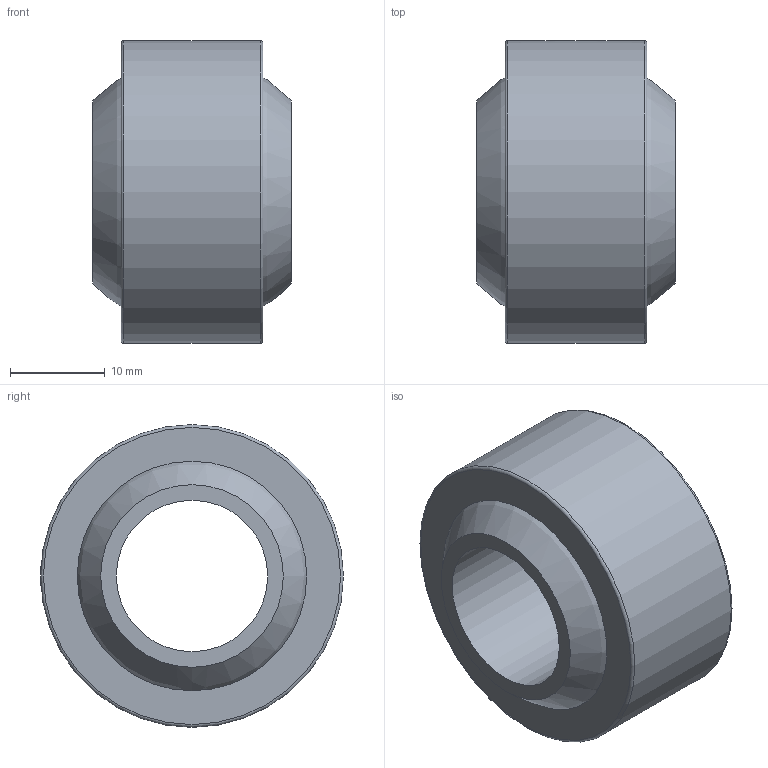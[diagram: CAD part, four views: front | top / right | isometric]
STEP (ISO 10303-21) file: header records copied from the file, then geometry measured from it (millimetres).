
FILE_DESCRIPTION( ( 'STEP AP203' ), '1' );
FILE_NAME( 'C:/Temp/Ganter_Step_05_03_2020/data/3_6/gn_648_8/gn_648_8_n/Ball joint GN 648.8-16-32-N.stp', '2020-03-12T14:14:25', ( 'License CC BY-ND 4.0' ), ( 'CADENAS' ), ' ', 'PARTsolutions', ' ' );
FILE_SCHEMA( ( 'CONFIG_CONTROL_DESIGN' ) );
Length unit declared in the file: millimetre
Products named in the file (3): Ball joint GN 648.8-16-32-N; _Ball joint GN 648.8-16-32-N-2; _Ball joint GN 648.8-16-32-N-1
Assembly tree (2 placements, depth 2):
  Ball joint GN 648.8-16-32-N
    _Ball joint GN 648.8-16-32-N-2
    _Ball joint GN 648.8-16-32-N-1
Bounding box: 21 x 32 x 32 mm (x, y, z)
Volume: 10123.6 mm3; surface area: 6634.9 mm2
Topology: 2 solids, 2 shells, 11 faces, 20 edges, 13 vertices
Faces by surface type: plane 4, cylinder 3, sphere 2, torus 2
Full cylindrical faces by diameter (mm): 2.1 x1, 16 x1, 32 x1
Entity records: 382 total; most frequent: CARTESIAN_POINT 69, DIRECTION 50, AXIS2_PLACEMENT_3D 25, EDGE_LOOP 24, ORIENTED_EDGE 24, FACE_OUTER_BOUND 18, CC_DESIGN_PERSON_AND_ORGANIZATION_ASSIGNMENT 13, EDGE_CURVE 12
